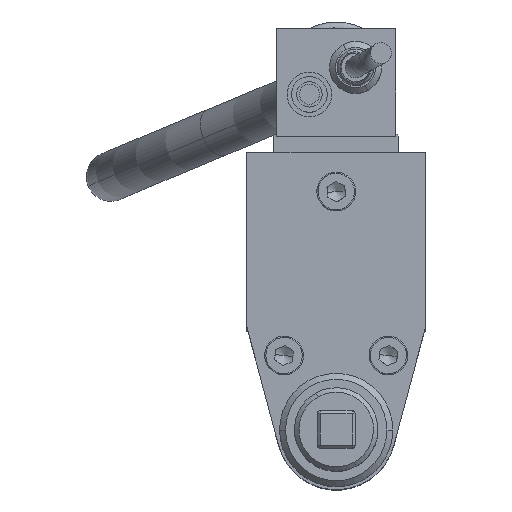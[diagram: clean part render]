
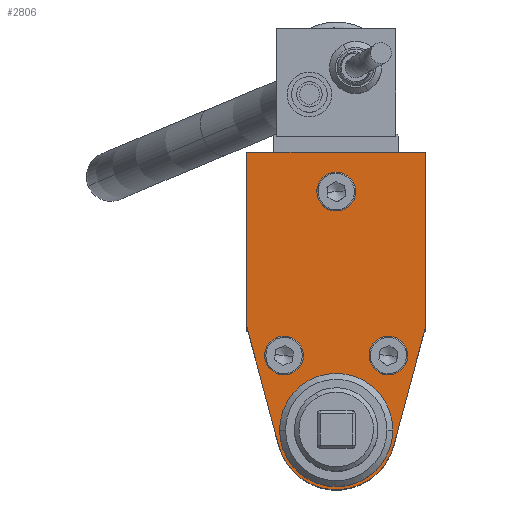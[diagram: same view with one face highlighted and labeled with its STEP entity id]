
A CAD part, top view. The second image highlights one B-rep face of the part: STEP entity #2806.
In plain terms, the highlighted planar face has unit normal (0, 0, 1).
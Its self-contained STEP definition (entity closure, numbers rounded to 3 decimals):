
#2659=CARTESIAN_POINT('Vertex',(19.,-63.23,417.1)) ;
#2662=CARTESIAN_POINT('Axis2P3D Location',(0.,-63.23,417.1)) ;
#2666=CARTESIAN_POINT('Vertex',(-19.,-63.23,417.1)) ;
#2681=CARTESIAN_POINT('Axis2P3D Location',(0.,-63.23,417.1)) ;
#2693=CARTESIAN_POINT('Axis2P3D Location',(0.,0.,417.1)) ;
#2698=CARTESIAN_POINT('Line Origine',(0.,30.,417.1)) ;
#2702=CARTESIAN_POINT('Vertex',(30.,30.,417.1)) ;
#2704=CARTESIAN_POINT('Vertex',(-30.,30.,417.1)) ;
#2707=CARTESIAN_POINT('Line Origine',(-30.,0.729,417.1)) ;
#2711=CARTESIAN_POINT('Vertex',(-30.,-28.543,417.1)) ;
#2714=CARTESIAN_POINT('Line Origine',(-24.659,-48.474,417.1)) ;
#2718=CARTESIAN_POINT('Vertex',(-19.319,-68.406,417.1)) ;
#2721=CARTESIAN_POINT('Axis2P3D Location',(0.,-63.23,417.1)) ;
#2725=CARTESIAN_POINT('Vertex',(19.319,-68.406,417.1)) ;
#2728=CARTESIAN_POINT('Line Origine',(24.659,-48.474,417.1)) ;
#2732=CARTESIAN_POINT('Vertex',(30.,-28.543,417.1)) ;
#2735=CARTESIAN_POINT('Line Origine',(30.,0.729,417.1)) ;
#2748=CARTESIAN_POINT('Axis2P3D Location',(0.,16.77,417.1)) ;
#2752=CARTESIAN_POINT('Vertex',(3.794,14.697,417.1)) ;
#2754=CARTESIAN_POINT('Vertex',(-3.794,18.843,417.1)) ;
#2757=CARTESIAN_POINT('Axis2P3D Location',(0.,16.77,417.1)) ;
#2766=CARTESIAN_POINT('Axis2P3D Location',(17.5,-38.23,417.1)) ;
#2770=CARTESIAN_POINT('Vertex',(21.294,-40.303,417.1)) ;
#2772=CARTESIAN_POINT('Vertex',(13.706,-36.157,417.1)) ;
#2775=CARTESIAN_POINT('Axis2P3D Location',(17.5,-38.23,417.1)) ;
#2784=CARTESIAN_POINT('Axis2P3D Location',(-17.5,-38.23,417.1)) ;
#2788=CARTESIAN_POINT('Vertex',(-13.706,-40.303,417.1)) ;
#2790=CARTESIAN_POINT('Vertex',(-21.294,-36.157,417.1)) ;
#2793=CARTESIAN_POINT('Axis2P3D Location',(-17.5,-38.23,417.1)) ;
#2663=DIRECTION('Axis2P3D Direction',(0.,0.,-1.)) ;
#2682=DIRECTION('Axis2P3D Direction',(0.,0.,-1.)) ;
#2694=DIRECTION('Axis2P3D Direction',(0.,0.,-1.)) ;
#2695=DIRECTION('Axis2P3D XDirection',(-1.,0.,0.)) ;
#2699=DIRECTION('Vector Direction',(-1.,0.,0.)) ;
#2708=DIRECTION('Vector Direction',(0.,1.,0.)) ;
#2715=DIRECTION('Vector Direction',(-0.259,0.966,0.)) ;
#2722=DIRECTION('Axis2P3D Direction',(0.,0.,-1.)) ;
#2729=DIRECTION('Vector Direction',(0.259,0.966,0.)) ;
#2736=DIRECTION('Vector Direction',(0.,-1.,0.)) ;
#2749=DIRECTION('Axis2P3D Direction',(0.,0.,-1.)) ;
#2758=DIRECTION('Axis2P3D Direction',(0.,0.,-1.)) ;
#2767=DIRECTION('Axis2P3D Direction',(0.,0.,-1.)) ;
#2776=DIRECTION('Axis2P3D Direction',(0.,0.,-1.)) ;
#2785=DIRECTION('Axis2P3D Direction',(0.,0.,-1.)) ;
#2794=DIRECTION('Axis2P3D Direction',(0.,0.,-1.)) ;
#2664=AXIS2_PLACEMENT_3D('Circle Axis2P3D',#2662,#2663,$) ;
#2683=AXIS2_PLACEMENT_3D('Circle Axis2P3D',#2681,#2682,$) ;
#2696=AXIS2_PLACEMENT_3D('Plane Axis2P3D',#2693,#2694,#2695) ;
#2723=AXIS2_PLACEMENT_3D('Circle Axis2P3D',#2721,#2722,$) ;
#2750=AXIS2_PLACEMENT_3D('Circle Axis2P3D',#2748,#2749,$) ;
#2759=AXIS2_PLACEMENT_3D('Circle Axis2P3D',#2757,#2758,$) ;
#2768=AXIS2_PLACEMENT_3D('Circle Axis2P3D',#2766,#2767,$) ;
#2777=AXIS2_PLACEMENT_3D('Circle Axis2P3D',#2775,#2776,$) ;
#2786=AXIS2_PLACEMENT_3D('Circle Axis2P3D',#2784,#2785,$) ;
#2795=AXIS2_PLACEMENT_3D('Circle Axis2P3D',#2793,#2794,$) ;
#2741=ORIENTED_EDGE('',*,*,#2706,.T.) ;
#2742=ORIENTED_EDGE('',*,*,#2713,.T.) ;
#2743=ORIENTED_EDGE('',*,*,#2720,.T.) ;
#2744=ORIENTED_EDGE('',*,*,#2727,.T.) ;
#2745=ORIENTED_EDGE('',*,*,#2734,.T.) ;
#2746=ORIENTED_EDGE('',*,*,#2739,.T.) ;
#2763=ORIENTED_EDGE('',*,*,#2756,.T.) ;
#2764=ORIENTED_EDGE('',*,*,#2761,.T.) ;
#2781=ORIENTED_EDGE('',*,*,#2774,.T.) ;
#2782=ORIENTED_EDGE('',*,*,#2779,.T.) ;
#2799=ORIENTED_EDGE('',*,*,#2792,.T.) ;
#2800=ORIENTED_EDGE('',*,*,#2797,.T.) ;
#2803=ORIENTED_EDGE('',*,*,#2685,.T.) ;
#2804=ORIENTED_EDGE('',*,*,#2668,.T.) ;
#2765=FACE_BOUND('',#2762,.T.) ;
#2783=FACE_BOUND('',#2780,.T.) ;
#2801=FACE_BOUND('',#2798,.T.) ;
#2805=FACE_BOUND('',#2802,.T.) ;
#2700=VECTOR('Line Direction',#2699,1.) ;
#2709=VECTOR('Line Direction',#2708,1.) ;
#2716=VECTOR('Line Direction',#2715,1.) ;
#2730=VECTOR('Line Direction',#2729,1.) ;
#2737=VECTOR('Line Direction',#2736,1.) ;
#2806=ADVANCED_FACE('',(#2747,#2765,#2783,#2801,#2805),#2697,.F.) ;
#2665=CIRCLE('generated circle',#2664,19.) ;
#2684=CIRCLE('generated circle',#2683,19.) ;
#2724=CIRCLE('generated circle',#2723,20.) ;
#2751=CIRCLE('generated circle',#2750,4.324) ;
#2760=CIRCLE('generated circle',#2759,4.324) ;
#2769=CIRCLE('generated circle',#2768,4.324) ;
#2778=CIRCLE('generated circle',#2777,4.324) ;
#2787=CIRCLE('generated circle',#2786,4.324) ;
#2796=CIRCLE('generated circle',#2795,4.324) ;
#2668=EDGE_CURVE('',#2667,#2660,#2665,.T.) ;
#2685=EDGE_CURVE('',#2660,#2667,#2684,.T.) ;
#2706=EDGE_CURVE('',#2703,#2705,#2701,.T.) ;
#2713=EDGE_CURVE('',#2705,#2712,#2710,.F.) ;
#2720=EDGE_CURVE('',#2712,#2719,#2717,.F.) ;
#2727=EDGE_CURVE('',#2719,#2726,#2724,.F.) ;
#2734=EDGE_CURVE('',#2726,#2733,#2731,.T.) ;
#2739=EDGE_CURVE('',#2733,#2703,#2738,.F.) ;
#2756=EDGE_CURVE('',#2753,#2755,#2751,.T.) ;
#2761=EDGE_CURVE('',#2755,#2753,#2760,.T.) ;
#2774=EDGE_CURVE('',#2771,#2773,#2769,.T.) ;
#2779=EDGE_CURVE('',#2773,#2771,#2778,.T.) ;
#2792=EDGE_CURVE('',#2789,#2791,#2787,.T.) ;
#2797=EDGE_CURVE('',#2791,#2789,#2796,.T.) ;
#2740=EDGE_LOOP('',(#2741,#2742,#2743,#2744,#2745,#2746)) ;
#2762=EDGE_LOOP('',(#2763,#2764)) ;
#2780=EDGE_LOOP('',(#2781,#2782)) ;
#2798=EDGE_LOOP('',(#2799,#2800)) ;
#2802=EDGE_LOOP('',(#2803,#2804)) ;
#2747=FACE_OUTER_BOUND('',#2740,.T.) ;
#2701=LINE('Line',#2698,#2700) ;
#2710=LINE('Line',#2707,#2709) ;
#2717=LINE('Line',#2714,#2716) ;
#2731=LINE('Line',#2728,#2730) ;
#2738=LINE('Line',#2735,#2737) ;
#2697=PLANE('Plane',#2696) ;
#2660=VERTEX_POINT('',#2659) ;
#2667=VERTEX_POINT('',#2666) ;
#2703=VERTEX_POINT('',#2702) ;
#2705=VERTEX_POINT('',#2704) ;
#2712=VERTEX_POINT('',#2711) ;
#2719=VERTEX_POINT('',#2718) ;
#2726=VERTEX_POINT('',#2725) ;
#2733=VERTEX_POINT('',#2732) ;
#2753=VERTEX_POINT('',#2752) ;
#2755=VERTEX_POINT('',#2754) ;
#2771=VERTEX_POINT('',#2770) ;
#2773=VERTEX_POINT('',#2772) ;
#2789=VERTEX_POINT('',#2788) ;
#2791=VERTEX_POINT('',#2790) ;
